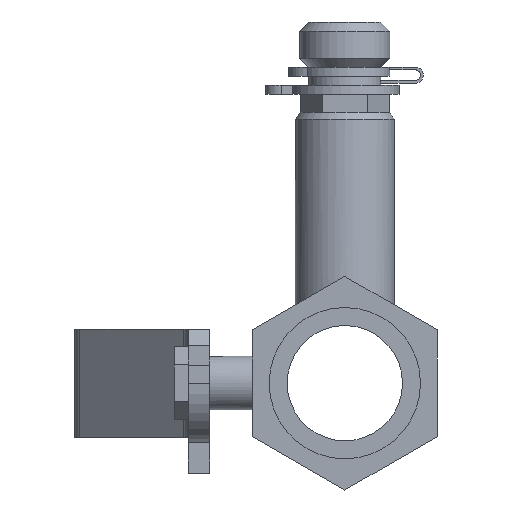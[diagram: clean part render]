
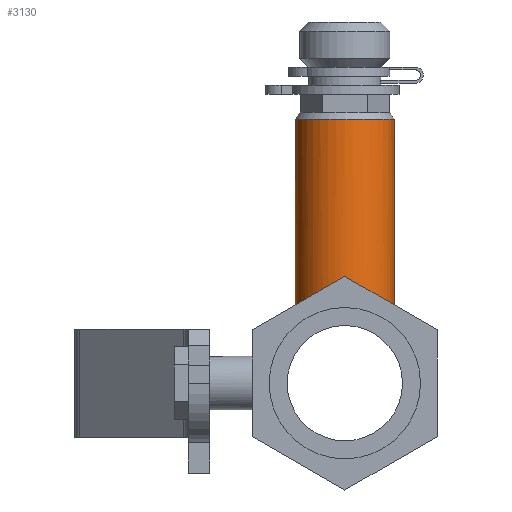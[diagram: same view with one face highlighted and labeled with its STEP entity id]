
A CAD part, left-side view. The second image highlights one B-rep face of the part: STEP entity #3130.
In plain terms, the highlighted cylindrical face has radius 6.985 mm (diameter 13.97 mm), a full revolution.
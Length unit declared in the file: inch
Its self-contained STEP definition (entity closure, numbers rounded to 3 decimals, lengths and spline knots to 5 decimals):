
#57=B_SPLINE_CURVE_WITH_KNOTS('',3,(#5066,#5067,#5068,#5069,#5070,#5071,
#5072,#5073,#5074,#5075),.UNSPECIFIED.,.F.,.F.,(4,2,2,2,4),(0.,0.26994,
0.53988,0.8088,1.07773),.UNSPECIFIED.);
#58=B_SPLINE_CURVE_WITH_KNOTS('',3,(#5076,#5077,#5078,#5079,#5080,#5081,
#5082,#5083,#5084,#5085,#5086,#5087,#5088,#5089,#5090,#5091,#5092,#5093,
#5094,#5095,#5096,#5097,#5098,#5099,#5100,#5101),.UNSPECIFIED.,.F.,.F.,
(4,2,2,2,2,2,2,2,2,2,2,2,4),(1.07773,1.34666,1.61559,
1.88552,2.15546,2.4254,2.69534,2.96427,
3.23319,3.50212,3.77105,4.04099,4.31093),
 .UNSPECIFIED.);
#309=FACE_OUTER_BOUND('',#488,.T.);
#488=EDGE_LOOP('',(#2558,#2559,#2560,#2561,#2562));
#644=CIRCLE('',#3411,0.275);
#864=LINE('',#5064,#1164);
#1164=VECTOR('',#4115,0.275);
#1459=VERTEX_POINT('',#5059);
#1460=VERTEX_POINT('',#5063);
#1461=VERTEX_POINT('',#5065);
#1838=EDGE_CURVE('',#1459,#1459,#644,.T.);
#1840=EDGE_CURVE('',#1459,#1460,#864,.T.);
#1841=EDGE_CURVE('',#1461,#1460,#57,.T.);
#1842=EDGE_CURVE('',#1460,#1461,#58,.T.);
#2558=ORIENTED_EDGE('',*,*,#1838,.F.);
#2559=ORIENTED_EDGE('',*,*,#1840,.T.);
#2560=ORIENTED_EDGE('',*,*,#1841,.F.);
#2561=ORIENTED_EDGE('',*,*,#1842,.F.);
#2562=ORIENTED_EDGE('',*,*,#1840,.F.);
#2850=CYLINDRICAL_SURFACE('',#3412,0.275);
#3130=ADVANCED_FACE('',(#309),#2850,.T.);
#3411=AXIS2_PLACEMENT_3D('',#5060,#4110,#4111);
#3412=AXIS2_PLACEMENT_3D('',#5062,#4113,#4114);
#4110=DIRECTION('center_axis',(0.,0.,1.));
#4111=DIRECTION('ref_axis',(-1.,0.,0.));
#4113=DIRECTION('center_axis',(0.,0.,1.));
#4114=DIRECTION('ref_axis',(-1.,0.,0.));
#4115=DIRECTION('',(0.,0.,-1.));
#5059=CARTESIAN_POINT('',(-0.2,0.,1.465));
#5060=CARTESIAN_POINT('Origin',(-0.475,0.,1.465));
#5062=CARTESIAN_POINT('Origin',(-0.475,0.,0.));
#5063=CARTESIAN_POINT('',(-0.2,0.,0.5135));
#5064=CARTESIAN_POINT('',(-0.2,0.,0.));
#5065=CARTESIAN_POINT('',(-0.475,0.275,0.43366));
#5066=CARTESIAN_POINT('Ctrl Pts',(-0.475,0.275,0.43366));
#5067=CARTESIAN_POINT('Ctrl Pts',(-0.43958,0.275,0.43366));
#5068=CARTESIAN_POINT('Ctrl Pts',(-0.40247,0.26777,0.43846));
#5069=CARTESIAN_POINT('Ctrl Pts',(-0.33503,0.23952,
0.45451));
#5070=CARTESIAN_POINT('Ctrl Pts',(-0.30461,0.21852,
0.46541));
#5071=CARTESIAN_POINT('Ctrl Pts',(-0.25657,0.17048,0.48507));
#5072=CARTESIAN_POINT('Ctrl Pts',(-0.23551,0.14003,
0.49524));
#5073=CARTESIAN_POINT('Ctrl Pts',(-0.2072,0.07246,
0.50953));
#5074=CARTESIAN_POINT('Ctrl Pts',(-0.2,0.03529,0.5135));
#5075=CARTESIAN_POINT('Ctrl Pts',(-0.2,0.,0.5135));
#5076=CARTESIAN_POINT('Ctrl Pts',(-0.2,0.,0.5135));
#5077=CARTESIAN_POINT('Ctrl Pts',(-0.2,-0.03529,0.5135));
#5078=CARTESIAN_POINT('Ctrl Pts',(-0.2072,-0.07246,
0.50953));
#5079=CARTESIAN_POINT('Ctrl Pts',(-0.23551,-0.14003,
0.49524));
#5080=CARTESIAN_POINT('Ctrl Pts',(-0.25657,-0.17048,
0.48507));
#5081=CARTESIAN_POINT('Ctrl Pts',(-0.30461,-0.21852,
0.46541));
#5082=CARTESIAN_POINT('Ctrl Pts',(-0.33503,-0.23952,
0.45451));
#5083=CARTESIAN_POINT('Ctrl Pts',(-0.40247,-0.26777,
0.43846));
#5084=CARTESIAN_POINT('Ctrl Pts',(-0.43958,-0.275,0.43366));
#5085=CARTESIAN_POINT('Ctrl Pts',(-0.51042,-0.275,0.43366));
#5086=CARTESIAN_POINT('Ctrl Pts',(-0.54753,-0.26777,
0.43846));
#5087=CARTESIAN_POINT('Ctrl Pts',(-0.61497,-0.23952,
0.45451));
#5088=CARTESIAN_POINT('Ctrl Pts',(-0.64539,-0.21852,
0.46541));
#5089=CARTESIAN_POINT('Ctrl Pts',(-0.69343,-0.17048,
0.48507));
#5090=CARTESIAN_POINT('Ctrl Pts',(-0.71449,-0.14003,
0.49524));
#5091=CARTESIAN_POINT('Ctrl Pts',(-0.7428,-0.07246,
0.50953));
#5092=CARTESIAN_POINT('Ctrl Pts',(-0.75,-0.03529,0.5135));
#5093=CARTESIAN_POINT('Ctrl Pts',(-0.75,0.03529,0.5135));
#5094=CARTESIAN_POINT('Ctrl Pts',(-0.7428,0.07246,
0.50953));
#5095=CARTESIAN_POINT('Ctrl Pts',(-0.71449,0.14003,
0.49524));
#5096=CARTESIAN_POINT('Ctrl Pts',(-0.69343,0.17048,0.48507));
#5097=CARTESIAN_POINT('Ctrl Pts',(-0.64539,0.21852,
0.46541));
#5098=CARTESIAN_POINT('Ctrl Pts',(-0.61497,0.23952,
0.45451));
#5099=CARTESIAN_POINT('Ctrl Pts',(-0.54753,0.26777,0.43846));
#5100=CARTESIAN_POINT('Ctrl Pts',(-0.51042,0.275,0.43366));
#5101=CARTESIAN_POINT('Ctrl Pts',(-0.475,0.275,0.43366));
